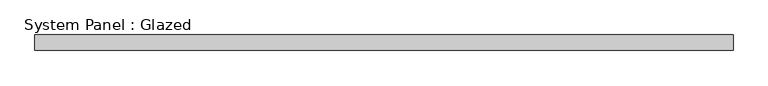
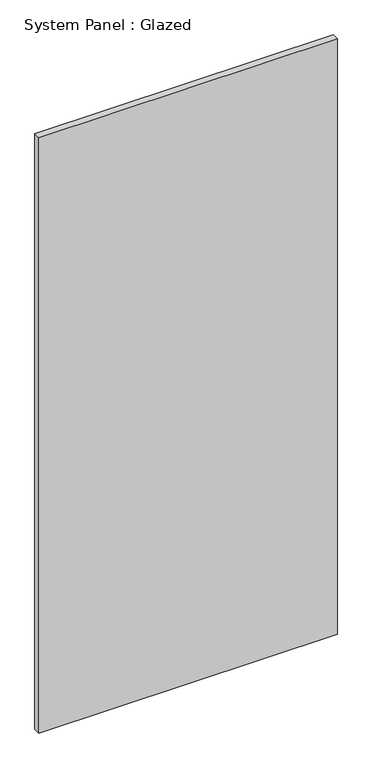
"""IFC4 building model written with IfcOpenShell, lengths in millimetres: plate geometry, System Panel : Glazed."""

from ifc_helpers import new_model, si_unit, origin, origin_with_axes, place, context, project, spatial, polyline, outline, extrude, source, transform, mapped, element, save


def system_panel_glazed_b7e011ba(model_context):
    return source(origin(), model_context, "Body", "SweptSolid", [
        extrude(outline(polyline([(560.9875, -49.5), (-560.9875, -49.5), (-560.9875, -24.5), (560.9875, -24.5), (560.9875, -49.5)])), origin_with_axes(), (0.0, 0.0, 1.0), 2363.4),
    ])


if __name__ == "__main__":
    model = new_model("IFC4")
    model_context = context("Model", 3, world=origin())
    ifc_project = project(units=[si_unit("LENGTHUNIT", "METRE", prefix="MILLI")], contexts=[model_context])
    site = spatial("IfcSite", under=ifc_project)
    building = spatial("IfcBuilding", under=site)
    placement = place(None, origin())
    system_panel_glazed_shape = system_panel_glazed_b7e011ba(model_context)
    element("IfcPlate", 1, ObjectType="System Panel : Glazed", at=placement, inside=building, context=model_context, shape_type="MappedRepresentation", body=[
        mapped(system_panel_glazed_shape, transform((0.0, 0.0, 0.0), x_axis=(1.0, 0.0, 0.0), y_axis=(0.0, 1.0, 0.0), z_axis=(0.0, 0.0, 1.0))),
    ])
    save(model, "model.ifc")
